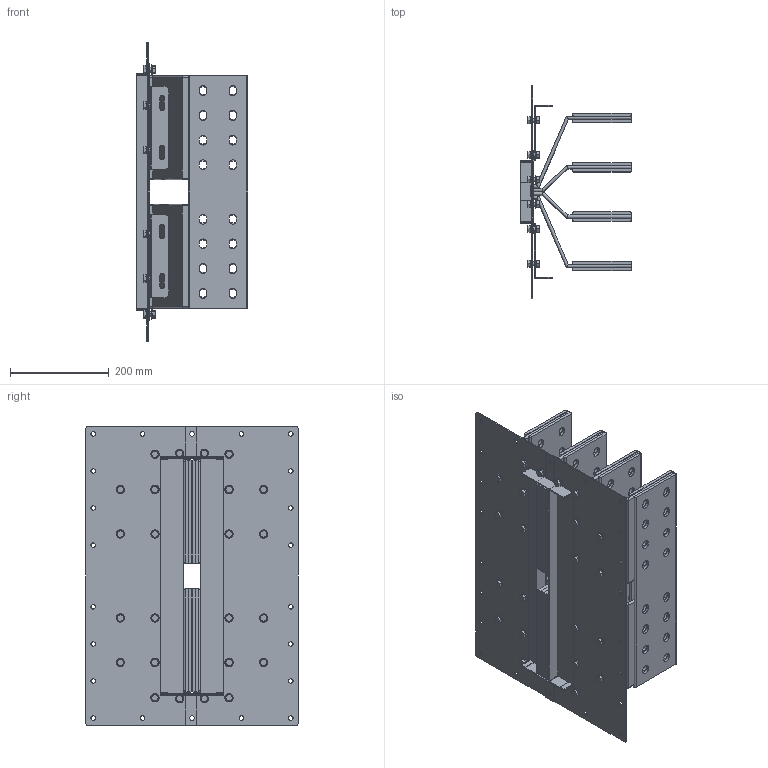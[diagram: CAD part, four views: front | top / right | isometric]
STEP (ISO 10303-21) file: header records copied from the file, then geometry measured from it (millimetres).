
FILE_DESCRIPTION(('CATIA V5 STEP','CAx-IF Rec.Pracs.--- Model Styling and Organization---1.5--- 2016-08-15','CAx-IF Rec.Pracs.---Supplemental Geometry---1.0---2011-11-01','CAx-IF Rec.Pracs.--- Composite Materials ---1.1---2010-07-15'),'2;1');
FILE_NAME('K:\COSCN 2011\32372311_RiduzioneSezioniBarre\03_Studio\__Modelli semplificati\XCP_UB semplificati per studi\XCP-HP_UB_4C_Pe_STD_Assieme\Cu\XCP-HP_UB_4C_Pe_D_Assieme - 5000A Cu\XCP-HP_UB_4C_Pe_D_Assieme - 5000A Cu.stp','2025-05-12T12:09:57+00:00',('Utente Bticino'),('Bticino S.p.A.'),'CATIA Version 5-6 Release 2020 SP5','CATIA V5 STEP AP214 v2','none');
FILE_SCHEMA(('AUTOMOTIVE_DESIGN { 1 0 10303 214 1 1 1 1 }'));
Length unit declared in the file: millimetre
Products named in the file (8): XCP-HP_UB_4C_Pe_D_Assieme - 5000A Cu; XCP-HP_UB_4C_Pe_D_PaccoBarre_5000A Cu; XCP-HP_UB_4C_Pe_D_Lamiere_5000A Cu; XCP-HP_UB_4C_Pe_D_PaccoBarre_5000A Cu_1; XCP-HP_UB_4C_Pe_D - 5000A Cu_Bandelle parallelo; Ass Vite+dado M8; Steel hex flanged SCREW M12x16; Steel hex flanged NUT M8
Assembly tree (30 placements, depth 3):
  XCP-HP_UB_4C_Pe_D_Assieme - 5000A Cu
    XCP-HP_UB_4C_Pe_D_PaccoBarre_5000A Cu
    XCP-HP_UB_4C_Pe_D_Lamiere_5000A Cu
    XCP-HP_UB_4C_Pe_D_PaccoBarre_5000A Cu_1
    XCP-HP_UB_4C_Pe_D - 5000A Cu_Bandelle parallelo
    Ass Vite+dado M8  x24
      Steel hex flanged SCREW M12x16
      Steel hex flanged NUT M8
Bounding box: 225 x 430 x 605 mm (x, y, z)
Volume: 6232391.4 mm3; surface area: 2753197.6 mm2
Topology: 74 solids, 74 shells, 2412 faces, 6240 edges, 4024 vertices
Faces by surface type: plane 1064, cylinder 916, cone 192, bspline 192, torus 48
Entity records: 41984 total; most frequent: CARTESIAN_POINT 8510, ORIENTED_EDGE 7604, DIRECTION 5152, EDGE_CURVE 3802, VERTEX_POINT 2506, VECTOR 2404, LINE 2404, AXIS2_PLACEMENT_3D 2032
